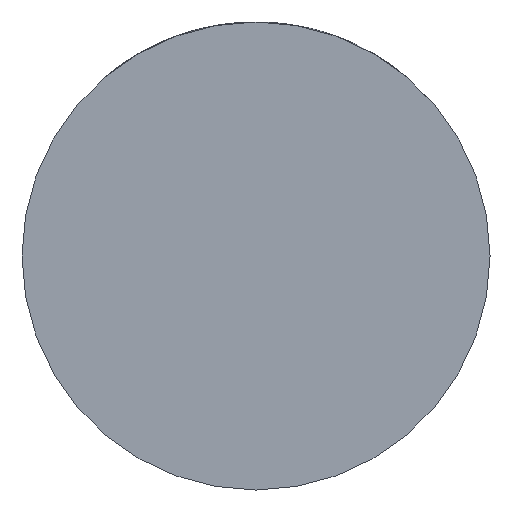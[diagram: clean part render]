
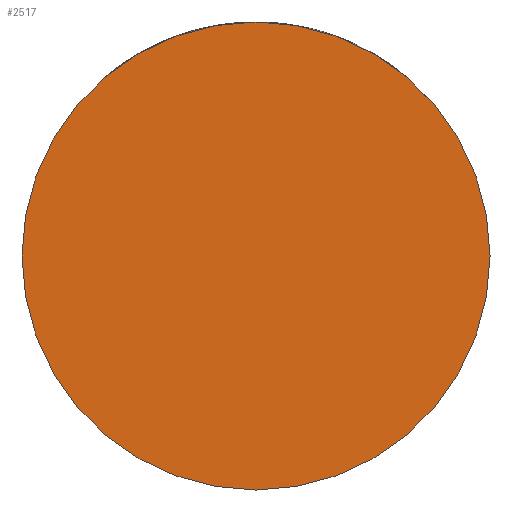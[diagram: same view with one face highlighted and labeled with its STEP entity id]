
A CAD part, front view. The second image highlights one B-rep face of the part: STEP entity #2517.
In plain terms, the highlighted planar face has unit normal (0, -1, 0).
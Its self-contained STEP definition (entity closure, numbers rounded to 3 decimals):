
#138 = EDGE_CURVE ( 'NONE', #1222, #1768, #3233, .T. ) ;
#530 = CARTESIAN_POINT ( 'NONE',  ( 0., -33., 0. ) ) ;
#777 = ORIENTED_EDGE ( 'NONE', *, *, #2433, .T. ) ;
#919 = FACE_OUTER_BOUND ( 'NONE', #1665, .T. ) ;
#956 = CARTESIAN_POINT ( 'NONE',  ( -29.5, -33., 0. ) ) ;
#1222 = VERTEX_POINT ( 'NONE', #956 ) ;
#1248 = CIRCLE ( 'NONE', #4263, 29.5 ) ;
#1404 = AXIS2_PLACEMENT_3D ( 'NONE', #3259, #2935, #2588 ) ;
#1606 = DIRECTION ( 'NONE',  ( 0., -1., 0. ) ) ;
#1665 = EDGE_LOOP ( 'NONE', ( #3535, #777 ) ) ;
#1768 = VERTEX_POINT ( 'NONE', #4223 ) ;
#1921 = DIRECTION ( 'NONE',  ( 0., -1., 0. ) ) ;
#1967 = DIRECTION ( 'NONE',  ( 1., 0., 0. ) ) ;
#2433 = EDGE_CURVE ( 'NONE', #1768, #1222, #1248, .T. ) ;
#2517 = ADVANCED_FACE ( 'NONE', ( #919 ), #3724, .T. ) ;
#2588 = DIRECTION ( 'NONE',  ( 1., 0., 0. ) ) ;
#2677 = DIRECTION ( 'NONE',  ( 1., 0., 0. ) ) ;
#2928 = AXIS2_PLACEMENT_3D ( 'NONE', #530, #1921, #1967 ) ;
#2935 = DIRECTION ( 'NONE',  ( 0., -1., 0. ) ) ;
#3233 = CIRCLE ( 'NONE', #1404, 29.5 ) ;
#3259 = CARTESIAN_POINT ( 'NONE',  ( 0., -33., 0. ) ) ;
#3535 = ORIENTED_EDGE ( 'NONE', *, *, #138, .T. ) ;
#3724 = PLANE ( 'NONE',  #2928 ) ;
#4117 = CARTESIAN_POINT ( 'NONE',  ( 0., -33., 0. ) ) ;
#4223 = CARTESIAN_POINT ( 'NONE',  ( 29.5, -33., 0. ) ) ;
#4263 = AXIS2_PLACEMENT_3D ( 'NONE', #4117, #1606, #2677 ) ;
